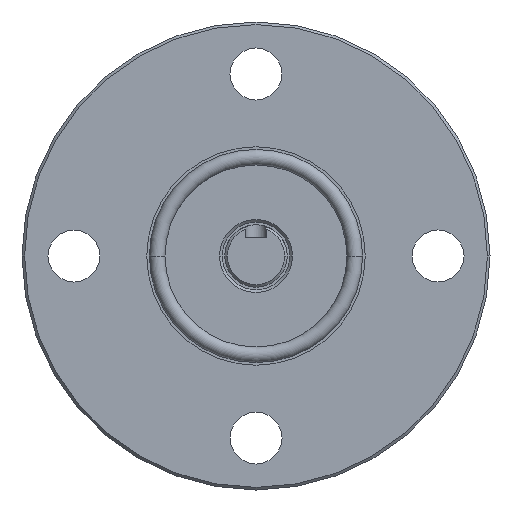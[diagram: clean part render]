
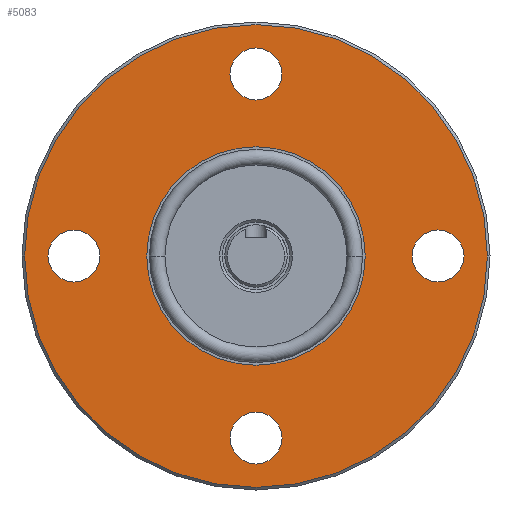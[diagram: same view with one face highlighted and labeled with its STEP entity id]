
A CAD part, left-side view. The second image highlights one B-rep face of the part: STEP entity #5083.
In plain terms, the highlighted planar face has unit normal (-1, 0, 0).
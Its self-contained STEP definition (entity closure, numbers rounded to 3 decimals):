
#4081 = VERTEX_POINT ( 'NONE', #32452 ) ;
#4083 = EDGE_CURVE ( 'NONE', #4081, #4084, #32451, .T. ) ;
#4084 = VERTEX_POINT ( 'NONE', #32446 ) ;
#4485 = VERTEX_POINT ( 'NONE', #36304 ) ;
#4487 = VERTEX_POINT ( 'NONE', #36299 ) ;
#4489 = EDGE_CURVE ( 'NONE', #4487, #4490, #36298, .T. ) ;
#4490 = VERTEX_POINT ( 'NONE', #36293 ) ;
#4525 = EDGE_CURVE ( 'NONE', #4554, #4526, #36576, .T. ) ;
#4526 = VERTEX_POINT ( 'NONE', #36611 ) ;
#4542 = EDGE_CURVE ( 'NONE', #4485, #4543, #36742, .T. ) ;
#4543 = VERTEX_POINT ( 'NONE', #36722 ) ;
#4554 = VERTEX_POINT ( 'NONE', #36769 ) ;
#4556 = VERTEX_POINT ( 'NONE', #36768 ) ;
#4558 = EDGE_CURVE ( 'NONE', #4556, #4559, #36767, .T. ) ;
#4559 = VERTEX_POINT ( 'NONE', #36762 ) ;
#4904 = EDGE_CURVE ( 'NONE', #4905, #4906, #38294, .T. ) ;
#4905 = VERTEX_POINT ( 'NONE', #38285 ) ;
#4906 = VERTEX_POINT ( 'NONE', #38284 ) ;
#5055 = ORIENTED_EDGE ( 'NONE', *, *, #4525, .F. ) ;
#5061 = EDGE_CURVE ( 'NONE', #4906, #4905, #38813, .T. ) ;
#5062 = ORIENTED_EDGE ( 'NONE', *, *, #4904, .T. ) ;
#5063 = EDGE_LOOP ( 'NONE', ( #5064, #5066 ) ) ;
#5064 = ORIENTED_EDGE ( 'NONE', *, *, #5065, .F. ) ;
#5065 = EDGE_CURVE ( 'NONE', #4084, #4081, #38808, .T. ) ;
#5066 = ORIENTED_EDGE ( 'NONE', *, *, #4083, .F. ) ;
#5067 = EDGE_LOOP ( 'NONE', ( #5068, #5070 ) ) ;
#5068 = ORIENTED_EDGE ( 'NONE', *, *, #5069, .F. ) ;
#5069 = EDGE_CURVE ( 'NONE', #4490, #4487, #38803, .T. ) ;
#5070 = ORIENTED_EDGE ( 'NONE', *, *, #4489, .F. ) ;
#5071 = EDGE_LOOP ( 'NONE', ( #5072, #5125 ) ) ;
#5072 = ORIENTED_EDGE ( 'NONE', *, *, #5073, .F. ) ;
#5073 = EDGE_CURVE ( 'NONE', #4559, #4556, #38798, .T. ) ;
#5083 = ADVANCED_FACE ( 'NONE', ( #38841, #38840, #38839, #38838, #38837, #38836 ), #38835, .T. ) ;
#5084 = EDGE_LOOP ( 'NONE', ( #5085, #5062 ) ) ;
#5085 = ORIENTED_EDGE ( 'NONE', *, *, #5061, .T. ) ;
#5125 = ORIENTED_EDGE ( 'NONE', *, *, #4558, .F. ) ;
#5126 = EDGE_LOOP ( 'NONE', ( #5127, #5129 ) ) ;
#5127 = ORIENTED_EDGE ( 'NONE', *, *, #5128, .F. ) ;
#5128 = EDGE_CURVE ( 'NONE', #4543, #4485, #8475, .T. ) ;
#5129 = ORIENTED_EDGE ( 'NONE', *, *, #4542, .F. ) ;
#5130 = EDGE_LOOP ( 'NONE', ( #5131, #5055 ) ) ;
#5131 = ORIENTED_EDGE ( 'NONE', *, *, #5132, .F. ) ;
#5132 = EDGE_CURVE ( 'NONE', #4526, #4554, #8470, .T. ) ;
#8466 = DIRECTION ( 'NONE',  ( 0., -1., 0. ) ) ;
#8467 = DIRECTION ( 'NONE',  ( -1., 0., 0. ) ) ;
#8468 = CARTESIAN_POINT ( 'NONE',  ( 30., 35., 0. ) ) ;
#8469 = AXIS2_PLACEMENT_3D ( 'NONE', #8468, #8467, #8466 ) ;
#8470 = CIRCLE ( 'NONE', #8469, 5. ) ;
#8471 = DIRECTION ( 'NONE',  ( 0., 0., 1. ) ) ;
#8472 = DIRECTION ( 'NONE',  ( -1., 0., 0. ) ) ;
#8473 = CARTESIAN_POINT ( 'NONE',  ( 30., 0., -35. ) ) ;
#8474 = AXIS2_PLACEMENT_3D ( 'NONE', #8473, #8472, #8471 ) ;
#8475 = CIRCLE ( 'NONE', #8474, 5. ) ;
#32446 = CARTESIAN_POINT ( 'NONE',  ( 30., -21., 0. ) ) ;
#32447 = DIRECTION ( 'NONE',  ( 0., -1., 0. ) ) ;
#32448 = DIRECTION ( 'NONE',  ( -1., 0., 0. ) ) ;
#32449 = CARTESIAN_POINT ( 'NONE',  ( 30., 0., 0. ) ) ;
#32450 = AXIS2_PLACEMENT_3D ( 'NONE', #32449, #32448, #32447 ) ;
#32451 = CIRCLE ( 'NONE', #32450, 21. ) ;
#32452 = CARTESIAN_POINT ( 'NONE',  ( 30., 21., 0. ) ) ;
#36293 = CARTESIAN_POINT ( 'NONE',  ( 30., -5., 35. ) ) ;
#36294 = DIRECTION ( 'NONE',  ( 0., 0., -1. ) ) ;
#36295 = DIRECTION ( 'NONE',  ( -1., 0., 0. ) ) ;
#36296 = CARTESIAN_POINT ( 'NONE',  ( 30., 0., 35. ) ) ;
#36297 = AXIS2_PLACEMENT_3D ( 'NONE', #36296, #36295, #36294 ) ;
#36298 = CIRCLE ( 'NONE', #36297, 5. ) ;
#36299 = CARTESIAN_POINT ( 'NONE',  ( 30., 5., 35. ) ) ;
#36304 = CARTESIAN_POINT ( 'NONE',  ( 30., 5., -35. ) ) ;
#36576 = CIRCLE ( 'NONE', #36615, 5. ) ;
#36611 = CARTESIAN_POINT ( 'NONE',  ( 30., 30., 0. ) ) ;
#36612 = DIRECTION ( 'NONE',  ( 0., -1., 0. ) ) ;
#36613 = DIRECTION ( 'NONE',  ( -1., 0., 0. ) ) ;
#36614 = CARTESIAN_POINT ( 'NONE',  ( 30., 35., 0. ) ) ;
#36615 = AXIS2_PLACEMENT_3D ( 'NONE', #36614, #36613, #36612 ) ;
#36670 = CARTESIAN_POINT ( 'NONE',  ( 30., 0., -35. ) ) ;
#36722 = CARTESIAN_POINT ( 'NONE',  ( 30., -5., -35. ) ) ;
#36723 = DIRECTION ( 'NONE',  ( 0., 0., 1. ) ) ;
#36740 = DIRECTION ( 'NONE',  ( -1., 0., 0. ) ) ;
#36741 = AXIS2_PLACEMENT_3D ( 'NONE', #36670, #36740, #36723 ) ;
#36742 = CIRCLE ( 'NONE', #36741, 5. ) ;
#36762 = CARTESIAN_POINT ( 'NONE',  ( 30., -40., 0. ) ) ;
#36763 = DIRECTION ( 'NONE',  ( 0., 1., 0. ) ) ;
#36764 = DIRECTION ( 'NONE',  ( -1., 0., 0. ) ) ;
#36765 = CARTESIAN_POINT ( 'NONE',  ( 30., -35., 0. ) ) ;
#36766 = AXIS2_PLACEMENT_3D ( 'NONE', #36765, #36764, #36763 ) ;
#36767 = CIRCLE ( 'NONE', #36766, 5. ) ;
#36768 = CARTESIAN_POINT ( 'NONE',  ( 30., -30., 0. ) ) ;
#36769 = CARTESIAN_POINT ( 'NONE',  ( 30., 40., 0. ) ) ;
#38284 = CARTESIAN_POINT ( 'NONE',  ( 30., 44.5, 0. ) ) ;
#38285 = CARTESIAN_POINT ( 'NONE',  ( 30., -44.5, 0. ) ) ;
#38286 = DIRECTION ( 'NONE',  ( 0., -1., 0. ) ) ;
#38287 = DIRECTION ( 'NONE',  ( -1., 0., 0. ) ) ;
#38288 = CARTESIAN_POINT ( 'NONE',  ( 30., 0., 0. ) ) ;
#38289 = AXIS2_PLACEMENT_3D ( 'NONE', #38288, #38287, #38286 ) ;
#38294 = CIRCLE ( 'NONE', #38289, 44.5 ) ;
#38794 = DIRECTION ( 'NONE',  ( 0., 1., 0. ) ) ;
#38795 = DIRECTION ( 'NONE',  ( -1., 0., 0. ) ) ;
#38796 = CARTESIAN_POINT ( 'NONE',  ( 30., -35., 0. ) ) ;
#38797 = AXIS2_PLACEMENT_3D ( 'NONE', #38796, #38795, #38794 ) ;
#38798 = CIRCLE ( 'NONE', #38797, 5. ) ;
#38799 = DIRECTION ( 'NONE',  ( 0., 0., -1. ) ) ;
#38800 = DIRECTION ( 'NONE',  ( -1., 0., 0. ) ) ;
#38801 = CARTESIAN_POINT ( 'NONE',  ( 30., 0., 35. ) ) ;
#38802 = AXIS2_PLACEMENT_3D ( 'NONE', #38801, #38800, #38799 ) ;
#38803 = CIRCLE ( 'NONE', #38802, 5. ) ;
#38804 = DIRECTION ( 'NONE',  ( 0., -1., 0. ) ) ;
#38805 = DIRECTION ( 'NONE',  ( -1., 0., 0. ) ) ;
#38806 = CARTESIAN_POINT ( 'NONE',  ( 30., 0., 0. ) ) ;
#38807 = AXIS2_PLACEMENT_3D ( 'NONE', #38806, #38805, #38804 ) ;
#38808 = CIRCLE ( 'NONE', #38807, 21. ) ;
#38809 = DIRECTION ( 'NONE',  ( 0., -1., 0. ) ) ;
#38810 = DIRECTION ( 'NONE',  ( -1., 0., 0. ) ) ;
#38811 = CARTESIAN_POINT ( 'NONE',  ( 30., 0., 0. ) ) ;
#38812 = AXIS2_PLACEMENT_3D ( 'NONE', #38811, #38810, #38809 ) ;
#38813 = CIRCLE ( 'NONE', #38812, 44.5 ) ;
#38831 = DIRECTION ( 'NONE',  ( 0., -1., 0. ) ) ;
#38832 = DIRECTION ( 'NONE',  ( -1., 0., 0. ) ) ;
#38833 = CARTESIAN_POINT ( 'NONE',  ( 30., 6., 0. ) ) ;
#38834 = AXIS2_PLACEMENT_3D ( 'NONE', #38833, #38832, #38831 ) ;
#38835 = PLANE ( 'NONE',  #38834 ) ;
#38836 = FACE_BOUND ( 'NONE', #5130, .T. ) ;
#38837 = FACE_BOUND ( 'NONE', #5126, .T. ) ;
#38838 = FACE_BOUND ( 'NONE', #5071, .T. ) ;
#38839 = FACE_BOUND ( 'NONE', #5067, .T. ) ;
#38840 = FACE_BOUND ( 'NONE', #5063, .T. ) ;
#38841 = FACE_OUTER_BOUND ( 'NONE', #5084, .T. ) ;
